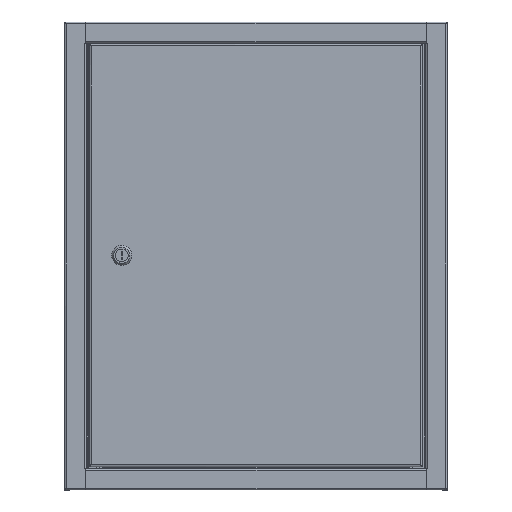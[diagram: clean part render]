
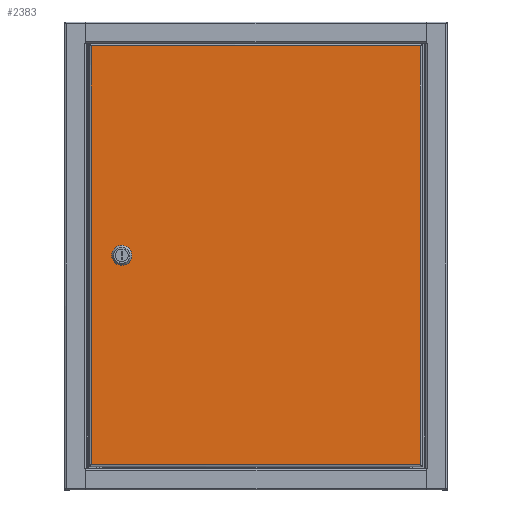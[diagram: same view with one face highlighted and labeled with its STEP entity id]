
A CAD part, top view. The second image highlights one B-rep face of the part: STEP entity #2383.
In plain terms, the highlighted planar face has unit normal (0, 0, 1).
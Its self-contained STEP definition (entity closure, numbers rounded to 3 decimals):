
#255 = DIRECTION ( 'NONE',  ( 1., 0., 0. ) ) ;
#271 = ORIENTED_EDGE ( 'NONE', *, *, #14742, .F. ) ;
#417 = EDGE_CURVE ( 'NONE', #2411, #9411, #10745, .T. ) ;
#555 = LINE ( 'NONE', #10333, #2038 ) ;
#583 = EDGE_CURVE ( 'NONE', #9411, #13857, #862, .T. ) ;
#862 = LINE ( 'NONE', #8313, #12393 ) ;
#1403 = VECTOR ( 'NONE', #8127, 1000. ) ;
#1820 = CARTESIAN_POINT ( 'NONE',  ( -366.9, -258.5, 576.901 ) ) ;
#1827 = LINE ( 'NONE', #3543, #12054 ) ;
#2038 = VECTOR ( 'NONE', #255, 1000. ) ;
#2061 = CARTESIAN_POINT ( 'NONE',  ( -366.9, -242.1, 576.901 ) ) ;
#2383 = ADVANCED_FACE ( 'NONE', ( #3182, #2437 ), #9899, .T. ) ;
#2411 = VERTEX_POINT ( 'NONE', #13533 ) ;
#2437 = FACE_BOUND ( 'NONE', #2944, .T. ) ;
#2666 = ORIENTED_EDGE ( 'NONE', *, *, #417, .F. ) ;
#2926 = ORIENTED_EDGE ( 'NONE', *, *, #5717, .T. ) ;
#2944 = EDGE_LOOP ( 'NONE', ( #6443, #2666, #14023, #14534 ) ) ;
#2974 = LINE ( 'NONE', #9768, #4631 ) ;
#3101 = CARTESIAN_POINT ( 'NONE',  ( -366.9, -242.1, 576.901 ) ) ;
#3160 = VECTOR ( 'NONE', #6461, 1000. ) ;
#3182 = FACE_OUTER_BOUND ( 'NONE', #4633, .T. ) ;
#3196 = EDGE_CURVE ( 'NONE', #7094, #2411, #555, .T. ) ;
#3525 = VERTEX_POINT ( 'NONE', #11485 ) ;
#3543 = CARTESIAN_POINT ( 'NONE',  ( -5.7, -4.1, 576.901 ) ) ;
#3636 = DIRECTION ( 'NONE',  ( -1., 0., 0. ) ) ;
#4433 = ORIENTED_EDGE ( 'NONE', *, *, #8835, .T. ) ;
#4631 = VECTOR ( 'NONE', #8674, 1000. ) ;
#4633 = EDGE_LOOP ( 'NONE', ( #2926, #4433, #271, #12354 ) ) ;
#5222 = CARTESIAN_POINT ( 'NONE',  ( -348.9, -242.1, 576.901 ) ) ;
#5717 = EDGE_CURVE ( 'NONE', #10239, #7182, #1827, .T. ) ;
#6346 = DIRECTION ( 'NONE',  ( 0., 0., 1. ) ) ;
#6443 = ORIENTED_EDGE ( 'NONE', *, *, #583, .F. ) ;
#6461 = DIRECTION ( 'NONE',  ( 0., 1., 0. ) ) ;
#6918 = LINE ( 'NONE', #12745, #1403 ) ;
#7094 = VERTEX_POINT ( 'NONE', #1820 ) ;
#7182 = VERTEX_POINT ( 'NONE', #12725 ) ;
#8127 = DIRECTION ( 'NONE',  ( 0., -1., 0. ) ) ;
#8201 = VERTEX_POINT ( 'NONE', #12160 ) ;
#8313 = CARTESIAN_POINT ( 'NONE',  ( -348.9, -242.1, 576.901 ) ) ;
#8649 = LINE ( 'NONE', #3101, #11350 ) ;
#8674 = DIRECTION ( 'NONE',  ( -1., 0., 0. ) ) ;
#8759 = DIRECTION ( 'NONE',  ( 0., 1., 0. ) ) ;
#8835 = EDGE_CURVE ( 'NONE', #7182, #8201, #6918, .T. ) ;
#9411 = VERTEX_POINT ( 'NONE', #13123 ) ;
#9482 = DIRECTION ( 'NONE',  ( -1., 0., 0. ) ) ;
#9768 = CARTESIAN_POINT ( 'NONE',  ( -5.7, -496.5, 576.901 ) ) ;
#9899 = PLANE ( 'NONE',  #14703 ) ;
#10239 = VERTEX_POINT ( 'NONE', #10804 ) ;
#10333 = CARTESIAN_POINT ( 'NONE',  ( -348.9, -258.5, 576.901 ) ) ;
#10496 = EDGE_CURVE ( 'NONE', #13857, #7094, #8649, .T. ) ;
#10745 = LINE ( 'NONE', #5222, #13506 ) ;
#10804 = CARTESIAN_POINT ( 'NONE',  ( -6.9, -4.1, 576.901 ) ) ;
#10969 = CARTESIAN_POINT ( 'NONE',  ( -5.7, -498.5, 576.901 ) ) ;
#11350 = VECTOR ( 'NONE', #13580, 1000. ) ;
#11376 = LINE ( 'NONE', #13389, #3160 ) ;
#11485 = CARTESIAN_POINT ( 'NONE',  ( -6.9, -496.5, 576.901 ) ) ;
#12054 = VECTOR ( 'NONE', #9482, 1000. ) ;
#12160 = CARTESIAN_POINT ( 'NONE',  ( -393.9, -496.5, 576.901 ) ) ;
#12194 = DIRECTION ( 'NONE',  ( 0., 1., 0. ) ) ;
#12354 = ORIENTED_EDGE ( 'NONE', *, *, #14609, .T. ) ;
#12393 = VECTOR ( 'NONE', #3636, 1000. ) ;
#12725 = CARTESIAN_POINT ( 'NONE',  ( -393.9, -4.1, 576.901 ) ) ;
#12745 = CARTESIAN_POINT ( 'NONE',  ( -393.9, -4.1, 576.901 ) ) ;
#13123 = CARTESIAN_POINT ( 'NONE',  ( -348.9, -242.1, 576.901 ) ) ;
#13389 = CARTESIAN_POINT ( 'NONE',  ( -6.9, -496.5, 576.901 ) ) ;
#13506 = VECTOR ( 'NONE', #8759, 1000. ) ;
#13533 = CARTESIAN_POINT ( 'NONE',  ( -348.9, -258.5, 576.901 ) ) ;
#13580 = DIRECTION ( 'NONE',  ( 0., -1., 0. ) ) ;
#13857 = VERTEX_POINT ( 'NONE', #2061 ) ;
#14023 = ORIENTED_EDGE ( 'NONE', *, *, #3196, .F. ) ;
#14534 = ORIENTED_EDGE ( 'NONE', *, *, #10496, .F. ) ;
#14609 = EDGE_CURVE ( 'NONE', #3525, #10239, #11376, .T. ) ;
#14703 = AXIS2_PLACEMENT_3D ( 'NONE', #10969, #6346, #12194 ) ;
#14742 = EDGE_CURVE ( 'NONE', #3525, #8201, #2974, .T. ) ;
